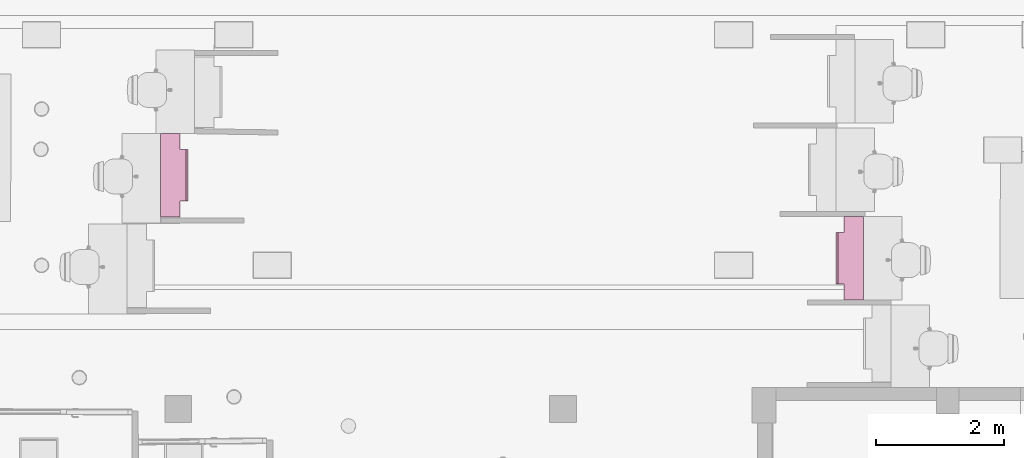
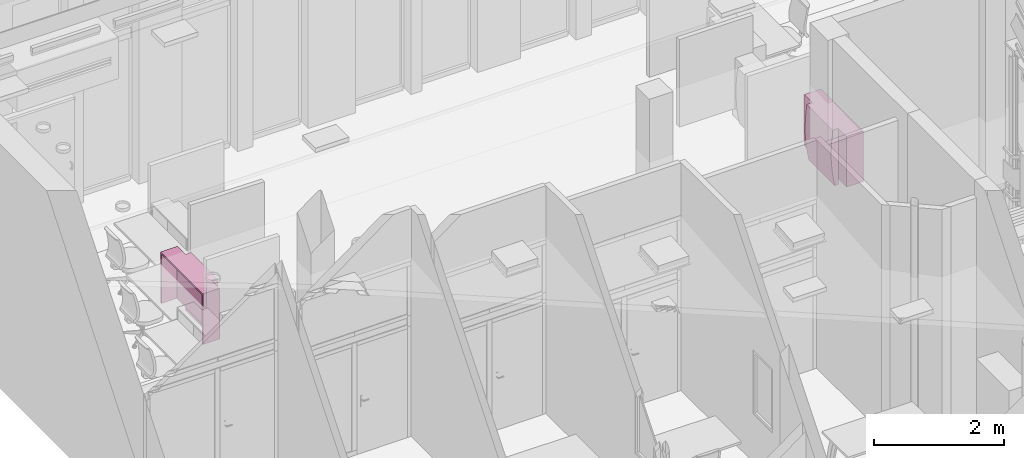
# One storey, part 91 of 128: 2 furnishings.
"""IFC2X3 building model written with IfcOpenShell, lengths in metres."""

from ifc_helpers import new_model, entity, si_unit, converted_unit, derived_unit, direction, frame, origin, place, context, subcontext, project, spatial, faceted_brep, source, transform, mapped, material, type_object, type_shapes, element, save


model = new_model("IFC2X3")

# Units and contexts
model_context = context("Model", 3, precision=1e-05, world=origin(), true_north=direction((6.123031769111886e-17, 1.0)))
body_context = subcontext(model_context, "Body", "Model", "MODEL_VIEW")
ifc_project = project(units=[si_unit("LENGTHUNIT", "METRE"), si_unit("AREAUNIT", "SQUARE_METRE"), converted_unit("PLANEANGLEUNIT", "DEGREE", entity("IfcPlaneAngleMeasure", 0.017453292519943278), si_unit("PLANEANGLEUNIT", "RADIAN"), dimensions=[0, 0, 0, 0, 0, 0, 0]), derived_unit("THERMALTRANSMITTANCEUNIT", [(si_unit("MASSUNIT", "GRAM", prefix="KILO"), 1), (si_unit("THERMODYNAMICTEMPERATUREUNIT", "KELVIN"), -1), (si_unit("TIMEUNIT", "SECOND"), -3)])], contexts=[model_context])

# Site, building, storey
site_placement = place(None, origin())
site = spatial("IfcSite", under=ifc_project, at=site_placement, Name="Default", CompositionType="ELEMENT")
building_placement = place(site_placement, origin())
building = spatial("IfcBuilding", under=site, at=building_placement, CompositionType="ELEMENT")
storey_placement = place(building_placement, origin())
storey = spatial("IfcBuildingStorey", under=building, at=storey_placement, Name="00_RDC CAF", CompositionType="ELEMENT", Elevation=2.4982504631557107e-13)

# Furnishings
ifc_material = material(Name="ARC - Mo - Blanc")
furniture_type = type_object("IfcFurnitureType", Name="Mo_Comptoir_Accueil:Mo_Table_1300x400x1200mm", AssemblyPlace="NOTDEFINED", material=ifc_material)
shared_shape = source(origin(), body_context, "Body", "Brep", [
    faceted_brep([(-0.4000000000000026, -0.14999999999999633, 0.95), (-0.649999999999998, -0.14999999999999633, 0.95), (-0.6499999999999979, -0.14999999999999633, 0.0), (-0.4000000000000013, -0.14999999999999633, 0.0), (0.6499999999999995, -0.14999999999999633, 0.95), (0.4000000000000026, -0.14999999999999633, 0.95), (0.4000000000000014, -0.14999999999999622, 0.0), (0.6499999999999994, -0.14999999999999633, 0.0), (-0.6499999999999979, 0.15000000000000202, 0.0), (-0.62, 0.15000000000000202, 0.0), (-0.62, -0.11999999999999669, 0.0), (0.6199999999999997, -0.11999999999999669, 0.0), (0.6199999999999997, 0.14999999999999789, 0.0), (0.6499999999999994, 0.14999999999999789, 0.0), (-0.62, -0.11999999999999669, 0.92), (0.6199999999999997, -0.11999999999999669, 0.92), (-0.6499999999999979, 0.14999999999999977, 0.95), (0.6499999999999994, 0.14999999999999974, 0.95), (-0.4000000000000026, -0.2500000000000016, 0.95), (0.4000000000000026, -0.2500000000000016, 0.95), (-0.62, 0.15000000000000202, 0.92), (0.6199999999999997, 0.14999999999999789, 0.92), (-0.4000000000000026, -0.1499999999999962, -0.09999999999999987), (-0.4000000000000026, -0.2154774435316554, -0.09999999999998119), (-0.4000000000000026, -0.2454476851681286, 0.06825699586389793), (-0.4000000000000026, -0.26578784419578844, 0.23794762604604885), (-0.4000000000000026, -0.2764319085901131, 0.4085211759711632), (-0.4000000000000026, -0.27734533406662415, 0.5794240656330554), (-0.4000000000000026, -0.2685251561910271, 0.7501016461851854), (-0.4000000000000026, -0.2500000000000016, 0.92), (0.4000000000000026, -0.2500000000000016, 0.92), (0.4000000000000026, -0.2685251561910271, 0.7501016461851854), (0.4000000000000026, -0.27734533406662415, 0.5794240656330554), (0.4000000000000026, -0.2764319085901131, 0.4085211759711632), (0.4000000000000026, -0.26578784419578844, 0.23794762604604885), (0.4000000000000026, -0.2454476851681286, 0.06825699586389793), (0.4000000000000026, -0.2154774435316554, -0.09999999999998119), (0.4000000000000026, -0.1499999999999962, -0.09999999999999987)], [[[0, 1, 2, 3]], [[4, 5, 6, 7]], [[8, 9, 10, 11, 12, 13, 7, 6, 3, 2]], [[14, 15, 11, 10]], [[1, 16, 8, 2]], [[17, 4, 7, 13]], [[17, 16, 1, 0, 18, 19, 5, 4]], [[14, 20, 21, 15]], [[20, 14, 10, 9]], [[17, 13, 12, 21, 20, 9, 8, 16]], [[15, 21, 12, 11]], [[0, 3, 22, 23, 24, 25, 26, 27, 28, 29, 18]], [[19, 18, 29, 30]], [[31, 32, 33, 34, 35, 36, 37, 6, 5, 19, 30]], [[31, 30, 29, 28]], [[32, 31, 28, 27]], [[33, 32, 27, 26]], [[35, 34, 25, 24]], [[36, 35, 24, 23]], [[26, 25, 34, 33]], [[37, 36, 23, 22]], [[6, 37, 22, 3]]]),
])
type_shapes(furniture_type, [shared_shape])
for number, where, z_axis, x_axis, name in (
    (1, (9.607702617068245, 140.19467657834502, 0.15999999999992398), (0.0, 0.0, 1.0), (0.0, 1.0, 0.0), "Mo_Comptoir_Accueil:Mo_Table_1300x400x1200mm"),
    (2, (20.275521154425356, 138.9018443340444, 0.15999999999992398), (0.0, 0.0, 1.0), (0.0, -1.0, 0.0), "Mo_Comptoir_Accueil:Mo_Table_1300x400x1200mm"),
):
    element("IfcFurnishingElement", number, at=place(storey_placement, frame(where, z_axis=z_axis, x_axis=x_axis)), inside=storey, type_object=furniture_type, material=ifc_material, Name=name, ObjectType="Mo_Comptoir_Accueil:Mo_Table_1300x400x1200mm", context=body_context, shape_type="MappedRepresentation", body=[
        mapped(shared_shape, transform((0.0, 0.0, 0.0), scale=1.0)),
    ])

save(model, "model.ifc")
